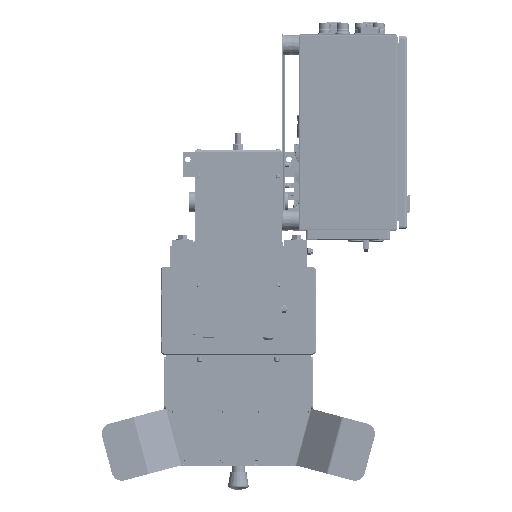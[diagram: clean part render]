
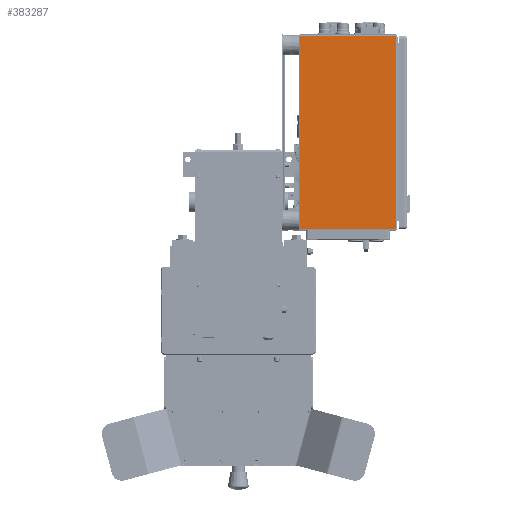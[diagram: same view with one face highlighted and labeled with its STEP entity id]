
A CAD part, top view. The second image highlights one B-rep face of the part: STEP entity #383287.
In plain terms, the highlighted planar face has unit normal (0, 0, 1) as drawn and (0, 1, 0) by its records, which use the part's own axes.
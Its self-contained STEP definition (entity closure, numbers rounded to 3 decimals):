
#23857=PLANE('',#405643);
#42683=FACE_OUTER_BOUND('',#64096,.T.);
#64096=EDGE_LOOP('',(#297204,#297205,#297206,#297207));
#92096=LINE('',#603418,#126268);
#92097=LINE('',#603421,#126269);
#92098=LINE('',#603423,#126270);
#92099=LINE('',#603424,#126271);
#126268=VECTOR('',#459763,10.);
#126269=VECTOR('',#459766,10.);
#126270=VECTOR('',#459767,10.);
#126271=VECTOR('',#459768,10.);
#170873=VERTEX_POINT('',#603414);
#170874=VERTEX_POINT('',#603416);
#170875=VERTEX_POINT('',#603420);
#170876=VERTEX_POINT('',#603422);
#216028=EDGE_CURVE('',#170874,#170873,#92096,.T.);
#216029=EDGE_CURVE('',#170875,#170873,#92097,.T.);
#216030=EDGE_CURVE('',#170874,#170876,#92098,.T.);
#216031=EDGE_CURVE('',#170876,#170875,#92099,.T.);
#297204=ORIENTED_EDGE('',*,*,#216029,.T.);
#297205=ORIENTED_EDGE('',*,*,#216028,.F.);
#297206=ORIENTED_EDGE('',*,*,#216030,.T.);
#297207=ORIENTED_EDGE('',*,*,#216031,.T.);
#383287=ADVANCED_FACE('',(#42683),#23857,.T.);
#405643=AXIS2_PLACEMENT_3D('',#603419,#459764,#459765);
#459763=DIRECTION('',(0.,0.,-1.));
#459764=DIRECTION('center_axis',(0.,1.,0.));
#459765=DIRECTION('ref_axis',(1.,0.,0.));
#459766=DIRECTION('',(-1.,0.,0.));
#459767=DIRECTION('',(1.,0.,0.));
#459768=DIRECTION('',(0.,0.,-1.));
#603414=CARTESIAN_POINT('',(94.513,985.,-244.999));
#603416=CARTESIAN_POINT('',(94.489,985.,131.001));
#603418=CARTESIAN_POINT('',(94.501,985.,-56.999));
#603419=CARTESIAN_POINT('Origin',(280.501,985.,-56.988));
#603420=CARTESIAN_POINT('',(280.513,985.,-244.988));
#603421=CARTESIAN_POINT('',(94.513,985.,-244.999));
#603422=CARTESIAN_POINT('',(280.489,985.,131.012));
#603423=CARTESIAN_POINT('',(94.489,985.,131.001));
#603424=CARTESIAN_POINT('',(280.501,985.,-56.988));
